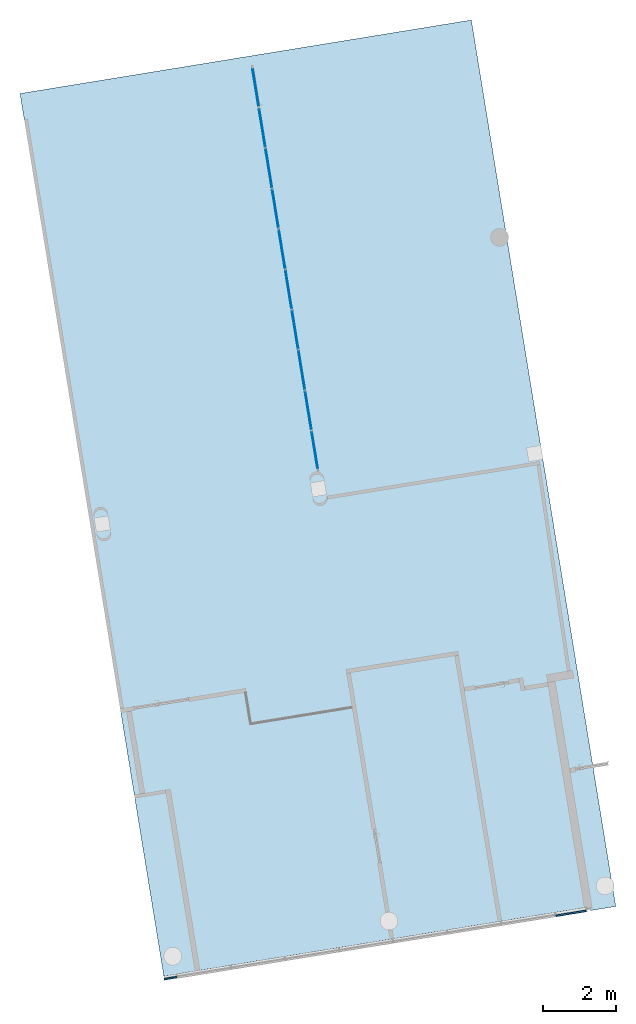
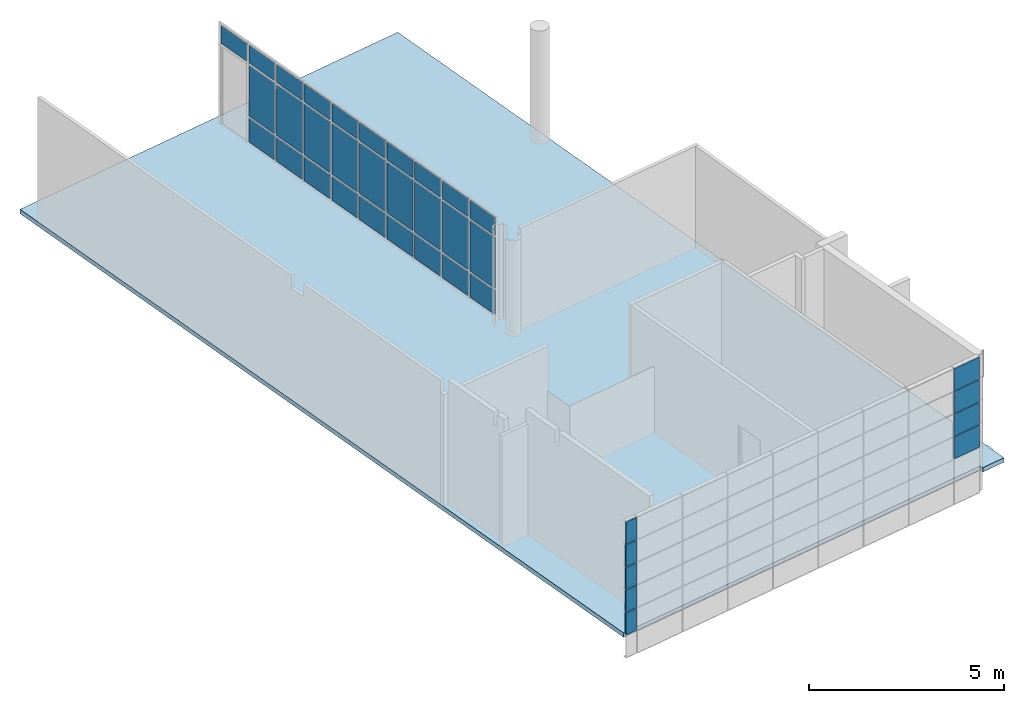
# One storey, part 8 of 18: 37 plates, 1 slab, 2 elements without a shape of their own.
"""IFC2X3 building model written with IfcOpenShell, lengths in millimetres."""

import ifcopenshell
import ifcopenshell.guid

model = None  # the IFC model being written
_history = None  # IfcOwnerHistory: only IFC2X3 demands one
_inside = {}  # id of a spatial element -> (the spatial element, [elements in it])
_under = {}  # id of a project, library or spatial element -> (it, [spatial elements below it])
_declared = {}  # id of a project -> (the project, [libraries it declares])
_typed = {}  # id of a type object -> (the type object, [elements of that type])
_made_of = {}  # id of a material, layer set ... -> (it, [elements and type objects made of it])


def new_model(schema):
    """Start an empty IFC model of exactly this schema.

    Asked for "IFC4X3", IfcOpenShell would pick the latest addendum, in which some entities
    have other attributes; the version numbers below select the first issue.
    IFC2X3 requires an IfcOwnerHistory on every rooted entity: one is made here for all.
    """
    global model, _history
    if schema == "IFC4X3":
        model = ifcopenshell.file(schema_version=(4, 3, 0, 0))
    else:
        model = ifcopenshell.file(schema=schema)
    _inside.clear()
    _under.clear()
    _declared.clear()
    _typed.clear()
    _made_of.clear()
    _history = None
    if model.schema == "IFC2X3":
        org = make("IfcOrganization", Name="unknown")
        user = make(
            "IfcPersonAndOrganization",
            ThePerson=make("IfcPerson", FamilyName="unknown"),
            TheOrganization=org,
        )
        app = make(
            "IfcApplication",
            ApplicationDeveloper=org,
            Version="unknown",
            ApplicationFullName="unknown",
            ApplicationIdentifier="unknown",
        )
        _history = make(
            "IfcOwnerHistory",
            OwningUser=user,
            OwningApplication=app,
            ChangeAction="ADDED",
            CreationDate=0,
        )
    return model


def make(cls, **values):
    """One entity of the class cls with the attributes given. An attribute that is None is left unset."""
    return model.create_entity(
        cls, **{name: value for name, value in values.items() if value is not None}
    )


def entity(cls, *values):
    """Any entity or typed value of the class cls, its attributes in the order of the schema. None: left unset."""
    e = model.create_entity(cls)
    for i, value in enumerate(values):
        if value is not None:
            e[i] = value
    return e


def rooted(cls, **values):
    """An entity with a GlobalId (a new one), such as an element, a storey or a relation."""
    return make(cls, GlobalId=ifcopenshell.guid.new(), OwnerHistory=_history, **values)


def si_unit(unit_type, name, prefix=None):
    """IfcSIUnit, for example si_unit("LENGTHUNIT", "METRE", prefix="MILLI")."""
    return make("IfcSIUnit", UnitType=unit_type, Prefix=prefix, Name=name)


def converted_unit(unit_type, name, factor, base, dimensions=None, offset=None):
    """IfcConversionBasedUnit, such as the inch: factor (a typed value) times the base unit."""
    return make(
        "IfcConversionBasedUnit"
        if offset is None
        else "IfcConversionBasedUnitWithOffset",
        ConversionOffset=offset,
        Dimensions=None
        if dimensions is None
        else entity("IfcDimensionalExponents", *dimensions),
        UnitType=unit_type,
        Name=name,
        ConversionFactor=make(
            "IfcMeasureWithUnit", ValueComponent=factor, UnitComponent=base
        ),
    )


def derived_unit(unit_type, elements):
    """IfcDerivedUnit: a product of units, each with its exponent."""
    return make(
        "IfcDerivedUnit",
        Elements=[
            make("IfcDerivedUnitElement", Unit=unit, Exponent=power)
            for unit, power in elements
        ],
        UnitType=unit_type,
    )


def assignment(units):
    """IfcUnitAssignment: the units of a project."""
    return None if units is None else make("IfcUnitAssignment", Units=units)


def point(xyz):
    """IfcCartesianPoint."""
    return None if xyz is None else make("IfcCartesianPoint", Coordinates=xyz)


def direction(xyz):
    """IfcDirection."""
    return None if xyz is None else make("IfcDirection", DirectionRatios=xyz)


def frame(location, z_axis=None, x_axis=None):
    """IfcAxis2Placement3D, a coordinate frame: its origin and axes. An axis left out is left unset."""
    return make(
        "IfcAxis2Placement3D",
        Location=point(location),
        Axis=direction(z_axis),
        RefDirection=direction(x_axis),
    )


def frame_2d(location, x_axis=None):
    """IfcAxis2Placement2D, a coordinate frame in the plane: its origin and x axis."""
    return make(
        "IfcAxis2Placement2D", Location=point(location), RefDirection=direction(x_axis)
    )


def origin():
    """The frame at (0, 0, 0) with its axes left unset."""
    return frame((0.0, 0.0, 0.0))


def origin_with_axes():
    """The frame at (0, 0, 0) with the z axis (0, 0, 1) and the x axis (1, 0, 0) written out."""
    return frame((0.0, 0.0, 0.0), z_axis=(0.0, 0.0, 1.0), x_axis=(1.0, 0.0, 0.0))


def origin_2d_with_axis():
    """The frame at (0, 0) in the plane with the x axis (1, 0) written out."""
    return frame_2d((0.0, 0.0), x_axis=(1.0, 0.0))


def place(relative_to, where):
    """IfcLocalPlacement: puts the frame where relative to a parent placement (None: the world)."""
    return make(
        "IfcLocalPlacement", PlacementRelTo=relative_to, RelativePlacement=where
    )


def context(
    kind, dimensions, precision=None, world=None, true_north=None, identifier=None
):
    """IfcGeometricRepresentationContext, for example the 3D "Model" context."""
    return make(
        "IfcGeometricRepresentationContext",
        ContextIdentifier=identifier,
        ContextType=kind,
        CoordinateSpaceDimension=dimensions,
        Precision=precision,
        WorldCoordinateSystem=world,
        TrueNorth=true_north,
    )


def subcontext(parent, identifier, kind, view, scale=None):
    """IfcGeometricRepresentationSubContext, for example "Body" below "Model"."""
    return make(
        "IfcGeometricRepresentationSubContext",
        ContextIdentifier=identifier,
        ContextType=kind,
        ParentContext=parent,
        TargetScale=scale,
        TargetView=view,
    )


def project(units=None, contexts=None):
    """IfcProject with its units and contexts."""
    return rooted(
        "IfcProject",
        Name="project",
        RepresentationContexts=contexts,
        UnitsInContext=assignment(units),
    )


def spatial(cls, under=None, at=None, **own):
    """A site, building, storey or space (cls), placed at a placement, below another one or the project."""
    s = rooted(cls, ObjectPlacement=at, **own)
    if under is not None:
        _under.setdefault(under.id(), (under, []))[1].append(s)
    return s


def profile(cls, at=None, kind="AREA", **sizes):
    """A parametric profile (cls). Its sizes go by their IFC names, for example OverallWidth=200.0."""
    return make(cls, ProfileType=kind, Position=at, **sizes)


def rectangle(**sizes):
    """IfcRectangleProfileDef."""
    return profile("IfcRectangleProfileDef", **sizes)


def extrude(swept, where, along, depth):
    """IfcExtrudedAreaSolid: the profile swept, set in the frame where, extruded along a direction by depth."""
    return make(
        "IfcExtrudedAreaSolid",
        SweptArea=swept,
        Position=where,
        ExtrudedDirection=direction(along),
        Depth=depth,
    )


def faces_of(points, faces, orient=None, outer=None):
    """IfcFace entities. A face is a list of loops; a loop is a list of indices into points, from 0.

    orient and outer hold one flag for each loop. By default every Orientation is true, the
    first loop of a face is its IfcFaceOuterBound and the others are IfcFaceBound.
    """
    made = []
    for i, loops in enumerate(faces):
        bounds = []
        for j, loop in enumerate(loops):
            is_outer = j == 0 if outer is None else outer[i][j]
            bounds.append(
                make(
                    "IfcFaceOuterBound" if is_outer else "IfcFaceBound",
                    Bound=make("IfcPolyLoop", Polygon=[points[k] for k in loop]),
                    Orientation=True if orient is None else orient[i][j],
                )
            )
        made.append(make("IfcFace", Bounds=bounds))
    return made


def faceted_brep(points, faces, orient=None, outer=None, voids=None):
    """IfcFacetedBrep: a solid bounded by flat faces; with voids (closed shells), ...WithVoids."""
    shared = [point(p) for p in points]
    hull = make("IfcClosedShell", CfsFaces=faces_of(shared, faces, orient, outer))
    if voids is None:
        return make("IfcFacetedBrep", Outer=hull)
    return make(
        "IfcFacetedBrepWithVoids",
        Outer=hull,
        Voids=[
            make(cls, CfsFaces=faces_of(shared, fs, o, b)) for cls, fs, o, b in voids
        ],
    )


def shape(context_of_items, identifier, shape_type, items):
    """IfcShapeRepresentation: the items that make up one representation, for example the "Body"."""
    return make(
        "IfcShapeRepresentation",
        ContextOfItems=context_of_items,
        RepresentationIdentifier=identifier,
        RepresentationType=shape_type,
        Items=items,
    )


def source(mapping_origin, context_of_items, identifier, shape_type, items):
    """IfcRepresentationMap: a shape defined once, which mapped items show again and again."""
    return make(
        "IfcRepresentationMap",
        MappingOrigin=mapping_origin,
        MappedRepresentation=shape(context_of_items, identifier, shape_type, items),
    )


def transform(
    local_origin,
    x_axis=None,
    y_axis=None,
    z_axis=None,
    scale=None,
    scale2=None,
    scale3=None,
    uniform=True,
):
    """IfcCartesianTransformationOperator3D, or its non-uniform kind. x_axis, y_axis, z_axis: its Axis1, 2, 3."""
    if uniform:
        return make(
            "IfcCartesianTransformationOperator3D",
            Axis1=direction(x_axis),
            Axis2=direction(y_axis),
            LocalOrigin=point(local_origin),
            Scale=scale,
            Axis3=direction(z_axis),
        )
    return make(
        "IfcCartesianTransformationOperator3DnonUniform",
        Axis1=direction(x_axis),
        Axis2=direction(y_axis),
        LocalOrigin=point(local_origin),
        Scale=scale,
        Axis3=direction(z_axis),
        Scale2=scale2,
        Scale3=scale3,
    )


def mapped(mapping_source, mapping_target):
    """IfcMappedItem: shows the shape of a source again, moved by a transform."""
    return make(
        "IfcMappedItem", MappingSource=mapping_source, MappingTarget=mapping_target
    )


def material(Name=None, Category=None):
    """IfcMaterial."""
    return make("IfcMaterial", Name=Name, Category=Category)


def layer(
    of_material, thickness, ventilated=None, Name=None, Category=None, Priority=None
):
    """IfcMaterialLayer: one layer of a wall or slab, of a material (None: an air gap)."""
    return make(
        "IfcMaterialLayer",
        Material=of_material,
        LayerThickness=thickness,
        IsVentilated=ventilated,
        Name=Name,
        Category=Category,
        Priority=Priority,
    )


def layer_set(layers, Name=None):
    """IfcMaterialLayerSet."""
    return make("IfcMaterialLayerSet", MaterialLayers=layers, LayerSetName=Name)


def made_of(thing, what):
    """Note that an element or type object is made of a material, layer set ...; save() writes the relation."""
    if what is not None:
        _made_of.setdefault(what.id(), (what, []))[1].append(thing)
    return thing


def type_object(cls, material=None, **own):
    """A type object (cls), such as IfcWallType, which elements share."""
    return made_of(rooted(cls, **own), material)


def element(
    cls,
    number,
    at=None,
    inside=None,
    cuts=None,
    type_object=None,
    material=None,
    context=None,
    identifier="Body",
    shape_type=None,
    held_by="IfcProductDefinitionShape",
    body=None,
    shapes=None,
    **own,
):
    """One element of the class cls, such as IfcWall. Its Tag is "e" and its number.

    at: its placement. inside: the storey or other place that contains it. cuts: it is an
    opening in that element (IfcRelVoidsElement). A single representation is given by context,
    identifier, shape_type and body (its items); several are given by shapes. held_by: the class
    of the entity that holds the representations. save() writes the other relations.
    """
    e = rooted(cls, Tag="e%d" % number, ObjectPlacement=at, **own)
    if body is not None:
        shapes = [shape(context, identifier, shape_type, body)]
    if shapes is not None:
        e.Representation = make(held_by, Representations=shapes)
    if inside is not None:
        _inside.setdefault(inside.id(), (inside, []))[1].append(e)
    if cuts is not None:
        rooted(
            "IfcRelVoidsElement", RelatingBuildingElement=cuts, RelatedOpeningElement=e
        )
    if type_object is not None:
        _typed.setdefault(type_object.id(), (type_object, []))[1].append(e)
    return made_of(e, material)


def aggregate(whole, parts):
    """IfcRelAggregates: a whole, such as a stair, and the parts it consists of."""
    return rooted("IfcRelAggregates", RelatingObject=whole, RelatedObjects=parts)


def save(model, path):
    """Write the relations noted so far, then the file.

    IfcRelAggregates (storeys below a building ...), IfcRelContainedInSpatialStructure (elements
    in a storey), IfcRelDefinesByType, IfcRelAssociatesMaterial and IfcRelDeclares: one each for
    every whole, place, type object, material and project.
    """
    for whole, parts in _under.values():
        aggregate(whole, parts)
    for where, things in _inside.values():
        rooted(
            "IfcRelContainedInSpatialStructure",
            RelatedElements=things,
            RelatingStructure=where,
        )
    for kind, things in _typed.values():
        rooted("IfcRelDefinesByType", RelatedObjects=things, RelatingType=kind)
    for what, things in _made_of.values():
        rooted("IfcRelAssociatesMaterial", RelatedObjects=things, RelatingMaterial=what)
    for by, libraries in _declared.values():
        rooted("IfcRelDeclares", RelatingContext=by, RelatedDefinitions=libraries)
    model.write(path)


model = new_model("IFC2X3")

# Units and contexts
model_context = context("Model", 3, precision=0.01, world=origin(), true_north=direction((6.12323399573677e-17, 1.0)))
plan_context = context("Plan", 3, precision=1e-05, world=origin_with_axes())
body_context = subcontext(model_context, "Body", "Model", "MODEL_VIEW")
ifc_project = project(units=[converted_unit("PLANEANGLEUNIT", "DEGREE", entity("IfcPositiveLengthMeasure", 0.0174532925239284), si_unit("PLANEANGLEUNIT", "RADIAN"), dimensions=[0, 0, 0, 0, 0, 0, 0]), si_unit("AREAUNIT", "SQUARE_METRE"), si_unit("LENGTHUNIT", "METRE", prefix="MILLI"), si_unit("MASSUNIT", "GRAM", prefix="KILO"), si_unit("POWERUNIT", "WATT"), si_unit("PRESSUREUNIT", "PASCAL", prefix="KILO"), si_unit("FORCEUNIT", "NEWTON", prefix="KILO"), si_unit("ELECTRICVOLTAGEUNIT", "VOLT"), si_unit("ELECTRICCURRENTUNIT", "AMPERE"), si_unit("THERMODYNAMICTEMPERATUREUNIT", "DEGREE_CELSIUS"), si_unit("TIMEUNIT", "SECOND"), si_unit("VOLUMEUNIT", "CUBIC_METRE"), derived_unit("LINEARVELOCITYUNIT", [(si_unit("LENGTHUNIT", "METRE"), 1), (si_unit("TIMEUNIT", "SECOND"), -1)]), derived_unit("VOLUMETRICFLOWRATEUNIT", [(si_unit("VOLUMEUNIT", "CUBIC_METRE"), 1), (si_unit("TIMEUNIT", "SECOND"), -1)]), derived_unit("THERMALTRANSMITTANCEUNIT", [(si_unit("POWERUNIT", "WATT"), 1), (si_unit("THERMODYNAMICTEMPERATUREUNIT", "KELVIN"), -1), (si_unit("AREAUNIT", "SQUARE_METRE"), -1)]), derived_unit("SOUNDPRESSUREUNIT", [(si_unit("PRESSUREUNIT", "PASCAL"), 1)])], contexts=[model_context, plan_context])

# Site, building, storey
site_placement = place(None, frame((-305029.896016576, -232111.759730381, 0.0), z_axis=(0.0, 0.0, 1.0), x_axis=(-0.160806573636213, 0.986985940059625, 0.0)))
site = spatial("IfcSite", under=ifc_project, at=site_placement, Name="Default", CompositionType="ELEMENT")
building_placement = place(site_placement, frame((0.0, 0.0, 0.0), z_axis=(0.0, 0.0, 1.0), x_axis=(1.0, -2.77555756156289e-17, 0.0)))
building = spatial("IfcBuilding", under=site, at=building_placement, Name="br001-a-200-1-0001", CompositionType="ELEMENT")
storey_placement = place(building_placement, frame((0.0, 0.0, 55500.0), z_axis=(0.0, 0.0, 1.0), x_axis=(1.0, -2.77555756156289e-17, 0.0)))
storey = spatial("IfcBuildingStorey", under=building, at=storey_placement, Name="H02-Nivå F-3,5 m", CompositionType="ELEMENT", Elevation=55500.0)

# Curtain wall, plates
curtain_wall_type_1 = type_object("IfcCurtainWallType", Name="Curtain Wall:Flesland int curt wall", PredefinedType="NOTDEFINED")
curtain_wall_1_placement = place(storey_placement, frame((0.0, 0.0, -55500.0), z_axis=(0.0, 0.0, 1.0), x_axis=(1.0, -2.77555756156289e-17, 0.0)))
curtain_wall_1 = element("IfcCurtainWall", 1, at=curtain_wall_1_placement, inside=storey, type_object=curtain_wall_type_1, Name="Curtain Wall:Flesland int curt wall", ObjectType="Curtain Wall:Flesland int curt wall")
ifc_material_1 = material(Name="Flesland - Finishes - Interior - Metal Panel")
plate_type_1 = type_object("IfcPlateType", Name="System Panel:Flesland int curt wall solid", PredefinedType="CURTAIN_PANEL", material=ifc_material_1)
shared_shape_1 = source(origin(), body_context, "Body", "SweptSolid", [
    extrude(rectangle(XDim=50.0, YDim=834.99999969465, at=origin_2d_with_axis()), frame((0.0, -37.5000000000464, 0.0), z_axis=(0.0, 0.0, 1.0), x_axis=(0.0, 1.0, 0.0)), (0.0, 0.0, 1.0), 686.0),
])
plate_1_placement = place(curtain_wall_1_placement, frame((1172125.09858442, -733723.878367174, 56208.0), z_axis=(0.0, 0.0, 1.0), x_axis=(-2.77555756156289e-17, -1.0, 0.0)))
plate_1 = element("IfcPlate", 2, at=plate_1_placement, type_object=plate_type_1, material=ifc_material_1, Name="System Panel:Flesland int curt wall solid", ObjectType="System Panel:Flesland int curt wall solid", context=body_context, shape_type="MappedRepresentation", body=[
    mapped(shared_shape_1, transform((0.0, 0.0, 0.0), scale=1.0)),
])
plate_2_placement = place(curtain_wall_1_placement, frame((1172125.09858442, -733723.878367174, 56919.0), z_axis=(0.0, 0.0, 1.0), x_axis=(-2.77555756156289e-17, -1.0, 0.0)))
plate_2 = element("IfcPlate", 3, at=plate_2_placement, type_object=plate_type_1, material=ifc_material_1, Name="System Panel:Flesland int curt wall solid", ObjectType="System Panel:Flesland int curt wall solid", context=body_context, shape_type="MappedRepresentation", body=[
    mapped(shared_shape_1, transform((0.0, 0.0, 0.0), scale=1.0)),
])
plate_3_placement = place(curtain_wall_1_placement, frame((1172125.09858442, -733723.878367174, 57630.0), z_axis=(0.0, 0.0, 1.0), x_axis=(-2.77555756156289e-17, -1.0, 0.0)))
plate_3 = element("IfcPlate", 4, at=plate_3_placement, type_object=plate_type_1, material=ifc_material_1, Name="System Panel:Flesland int curt wall solid", ObjectType="System Panel:Flesland int curt wall solid", context=body_context, shape_type="MappedRepresentation", body=[
    mapped(shared_shape_1, transform((0.0, 0.0, 0.0), scale=1.0)),
])
plate_4_placement = place(curtain_wall_1_placement, frame((1172125.09858442, -733723.878367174, 58341.0), z_axis=(0.0, 0.0, 1.0), x_axis=(-2.77555756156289e-17, -1.0, 0.0)))
plate_4 = element("IfcPlate", 5, at=plate_4_placement, type_object=plate_type_1, material=ifc_material_1, Name="System Panel:Flesland int curt wall solid", ObjectType="System Panel:Flesland int curt wall solid", context=body_context, shape_type="MappedRepresentation", body=[
    mapped(shared_shape_1, transform((0.0, 0.0, 0.0), scale=1.0)),
])

curtain_wall_type_2 = type_object("IfcCurtainWallType", Name="Curtain Wall:A243 Innvendig glassvegg", PredefinedType="NOTDEFINED")
curtain_wall_2_placement = place(storey_placement, frame((0.0, 0.0, -55500.0), z_axis=(0.0, 0.0, 1.0), x_axis=(1.0, -2.77555756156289e-17, 0.0)))
curtain_wall_2 = element("IfcCurtainWall", 6, at=curtain_wall_2_placement, inside=storey, type_object=curtain_wall_type_2, Name="Curtain Wall:A243 Innvendig glassvegg", ObjectType="Curtain Wall:A243 Innvendig glassvegg")
ifc_material_2 = material(Name="_Flesland Glass")
plate_type_2 = type_object("IfcPlateType", Name="System Panel:A234 - Systemglass", PredefinedType="CURTAIN_PANEL", material=ifc_material_2)
shared_shape_2 = source(origin(), body_context, "Body", "SweptSolid", [
    extrude(rectangle(XDim=25.0, YDim=1001.6666666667, at=origin_2d_with_axis()), frame((0.0, 0.0, 0.0), z_axis=(0.0, 0.0, 1.0), x_axis=(0.0, 1.0, 0.0)), (0.0, 0.0, 1.0), 740.000000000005),
])
plate_5_placement = place(curtain_wall_2_placement, frame((1185734.43191775, -728835.878367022, 55580.0), z_axis=(0.0, 0.0, 1.0), x_axis=(1.0, -2.77555756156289e-17, 0.0)))
plate_5 = element("IfcPlate", 7, at=plate_5_placement, type_object=plate_type_2, material=ifc_material_2, Name="System Panel:A234 - Systemglass", ObjectType="System Panel:A234 - Systemglass", context=body_context, shape_type="MappedRepresentation", body=[
    mapped(shared_shape_2, transform((0.0, 0.0, 0.0), scale=1.0)),
])
plate_type_3 = type_object("IfcPlateType", Name="System Panel:A234 - Systemglass", PredefinedType="CURTAIN_PANEL", material=ifc_material_2)
shared_shape_3 = source(origin(), body_context, "Body", "SweptSolid", [
    extrude(rectangle(XDim=25.0, YDim=1041.66666666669, at=origin_2d_with_axis()), frame((0.0, 0.0, 0.0), z_axis=(0.0, 0.0, 1.0), x_axis=(0.0, 1.0, 0.0)), (0.0, 0.0, 1.0), 740.000000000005),
])
plate_6_placement = place(curtain_wall_2_placement, frame((1186836.09858442, -728835.878367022, 55580.0), z_axis=(0.0, 0.0, 1.0), x_axis=(1.0, -2.77555756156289e-17, 0.0)))
plate_6 = element("IfcPlate", 8, at=plate_6_placement, type_object=plate_type_3, material=ifc_material_2, Name="System Panel:A234 - Systemglass", ObjectType="System Panel:A234 - Systemglass", context=body_context, shape_type="MappedRepresentation", body=[
    mapped(shared_shape_3, transform((0.0, 0.0, 0.0), scale=1.0)),
])
plate_7_placement = place(curtain_wall_2_placement, frame((1187957.76525108, -728835.878367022, 55580.0), z_axis=(0.0, 0.0, 1.0), x_axis=(1.0, -2.77555756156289e-17, 0.0)))
plate_7 = element("IfcPlate", 9, at=plate_7_placement, type_object=plate_type_3, material=ifc_material_2, Name="System Panel:A234 - Systemglass", ObjectType="System Panel:A234 - Systemglass", context=body_context, shape_type="MappedRepresentation", body=[
    mapped(shared_shape_3, transform((0.0, 0.0, 0.0), scale=1.0)),
])
plate_type_4 = type_object("IfcPlateType", Name="System Panel:A234 - Systemglass", PredefinedType="CURTAIN_PANEL", material=ifc_material_2)
shared_shape_4 = source(origin(), body_context, "Body", "SweptSolid", [
    extrude(rectangle(XDim=25.0, YDim=1040.00000000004, at=origin_2d_with_axis()), frame((0.0, 0.0, 0.0), z_axis=(0.0, 0.0, 1.0), x_axis=(0.0, 1.0, 0.0)), (0.0, 0.0, 1.0), 740.000000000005),
])
plate_8_placement = place(curtain_wall_2_placement, frame((1189078.59858442, -728835.878367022, 55580.0), z_axis=(0.0, 0.0, 1.0), x_axis=(1.0, -2.77555756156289e-17, 0.0)))
plate_8 = element("IfcPlate", 10, at=plate_8_placement, type_object=plate_type_4, material=ifc_material_2, Name="System Panel:A234 - Systemglass", ObjectType="System Panel:A234 - Systemglass", context=body_context, shape_type="MappedRepresentation", body=[
    mapped(shared_shape_4, transform((0.0, 0.0, 0.0), scale=1.0)),
])
plate_9_placement = place(curtain_wall_2_placement, frame((1192438.59858442, -728835.878367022, 55580.0), z_axis=(0.0, 0.0, 1.0), x_axis=(1.0, -2.77555756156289e-17, 0.0)))
plate_9 = element("IfcPlate", 11, at=plate_9_placement, type_object=plate_type_4, material=ifc_material_2, Name="System Panel:A234 - Systemglass", ObjectType="System Panel:A234 - Systemglass", context=body_context, shape_type="MappedRepresentation", body=[
    mapped(shared_shape_4, transform((0.0, 0.0, 0.0), scale=1.0)),
])
plate_10_placement = place(curtain_wall_2_placement, frame((1194683.59858442, -728835.878367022, 55580.0), z_axis=(0.0, 0.0, 1.0), x_axis=(1.0, -2.77555756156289e-17, 0.0)))
plate_10 = element("IfcPlate", 12, at=plate_10_placement, type_object=plate_type_4, material=ifc_material_2, Name="System Panel:A234 - Systemglass", ObjectType="System Panel:A234 - Systemglass", context=body_context, shape_type="MappedRepresentation", body=[
    mapped(shared_shape_4, transform((0.0, 0.0, 0.0), scale=1.0)),
])
plate_type_5 = type_object("IfcPlateType", Name="System Panel:A234 - Systemglass", PredefinedType="CURTAIN_PANEL", material=ifc_material_2)
shared_shape_5 = source(origin(), body_context, "Body", "SweptSolid", [
    extrude(rectangle(XDim=25.0, YDim=1034.99999999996, at=origin_2d_with_axis()), frame((0.0, 0.0, 0.0), z_axis=(0.0, 0.0, 1.0), x_axis=(0.0, 1.0, 0.0)), (0.0, 0.0, 1.0), 740.000000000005),
])
plate_11_placement = place(curtain_wall_2_placement, frame((1190196.09858442, -728835.878367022, 55580.0), z_axis=(0.0, 0.0, 1.0), x_axis=(1.0, -2.77555756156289e-17, 0.0)))
plate_11 = element("IfcPlate", 13, at=plate_11_placement, type_object=plate_type_5, material=ifc_material_2, Name="System Panel:A234 - Systemglass", ObjectType="System Panel:A234 - Systemglass", context=body_context, shape_type="MappedRepresentation", body=[
    mapped(shared_shape_5, transform((0.0, 0.0, 0.0), scale=1.0)),
])
plate_type_6 = type_object("IfcPlateType", Name="System Panel:A234 - Systemglass", PredefinedType="CURTAIN_PANEL", material=ifc_material_2)
shared_shape_6 = source(origin(), body_context, "Body", "SweptSolid", [
    extrude(rectangle(XDim=25.0, YDim=1044.99999999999, at=origin_2d_with_axis()), frame((0.0, 0.0, 0.0), z_axis=(0.0, 0.0, 1.0), x_axis=(0.0, 1.0, 0.0)), (0.0, 0.0, 1.0), 740.000000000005),
])
plate_12_placement = place(curtain_wall_2_placement, frame((1191316.09858442, -728835.878367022, 55580.0), z_axis=(0.0, 0.0, 1.0), x_axis=(1.0, -2.77555756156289e-17, 0.0)))
plate_12 = element("IfcPlate", 14, at=plate_12_placement, type_object=plate_type_6, material=ifc_material_2, Name="System Panel:A234 - Systemglass", ObjectType="System Panel:A234 - Systemglass", context=body_context, shape_type="MappedRepresentation", body=[
    mapped(shared_shape_6, transform((0.0, 0.0, 0.0), scale=1.0)),
])
plate_13_placement = place(curtain_wall_2_placement, frame((1193561.09858442, -728835.878367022, 55580.0), z_axis=(0.0, 0.0, 1.0), x_axis=(1.0, -2.77555756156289e-17, 0.0)))
plate_13 = element("IfcPlate", 15, at=plate_13_placement, type_object=plate_type_6, material=ifc_material_2, Name="System Panel:A234 - Systemglass", ObjectType="System Panel:A234 - Systemglass", context=body_context, shape_type="MappedRepresentation", body=[
    mapped(shared_shape_6, transform((0.0, 0.0, 0.0), scale=1.0)),
])
plate_type_7 = type_object("IfcPlateType", Name="System Panel:A234 - Systemglass", PredefinedType="CURTAIN_PANEL", material=ifc_material_2)
shared_shape_7 = source(origin(), body_context, "Body", "SweptSolid", [
    extrude(rectangle(XDim=25.0, YDim=1001.6666666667, at=origin_2d_with_axis()), frame((0.0, 0.0, 0.0), z_axis=(0.0, 0.0, 1.0), x_axis=(0.0, 1.0, 0.0)), (0.0, 0.0, 1.0), 1580.0),
])
plate_14_placement = place(curtain_wall_2_placement, frame((1185734.43191775, -728835.878367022, 56400.0), z_axis=(0.0, 0.0, 1.0), x_axis=(1.0, -2.77555756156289e-17, 0.0)))
plate_14 = element("IfcPlate", 16, at=plate_14_placement, type_object=plate_type_7, material=ifc_material_2, Name="System Panel:A234 - Systemglass", ObjectType="System Panel:A234 - Systemglass", context=body_context, shape_type="MappedRepresentation", body=[
    mapped(shared_shape_7, transform((0.0, 0.0, 0.0), scale=1.0)),
])
plate_type_8 = type_object("IfcPlateType", Name="System Panel:A234 - Systemglass", PredefinedType="CURTAIN_PANEL", material=ifc_material_2)
shared_shape_8 = source(origin(), body_context, "Body", "SweptSolid", [
    extrude(rectangle(XDim=25.0, YDim=1041.66666666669, at=origin_2d_with_axis()), frame((0.0, 0.0, 0.0), z_axis=(0.0, 0.0, 1.0), x_axis=(0.0, 1.0, 0.0)), (0.0, 0.0, 1.0), 1580.0),
])
plate_15_placement = place(curtain_wall_2_placement, frame((1186836.09858442, -728835.878367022, 56400.0), z_axis=(0.0, 0.0, 1.0), x_axis=(1.0, -2.77555756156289e-17, 0.0)))
plate_15 = element("IfcPlate", 17, at=plate_15_placement, type_object=plate_type_8, material=ifc_material_2, Name="System Panel:A234 - Systemglass", ObjectType="System Panel:A234 - Systemglass", context=body_context, shape_type="MappedRepresentation", body=[
    mapped(shared_shape_8, transform((0.0, 0.0, 0.0), scale=1.0)),
])
plate_16_placement = place(curtain_wall_2_placement, frame((1187957.76525108, -728835.878367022, 56400.0), z_axis=(0.0, 0.0, 1.0), x_axis=(1.0, -2.77555756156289e-17, 0.0)))
plate_16 = element("IfcPlate", 18, at=plate_16_placement, type_object=plate_type_8, material=ifc_material_2, Name="System Panel:A234 - Systemglass", ObjectType="System Panel:A234 - Systemglass", context=body_context, shape_type="MappedRepresentation", body=[
    mapped(shared_shape_8, transform((0.0, 0.0, 0.0), scale=1.0)),
])
plate_type_9 = type_object("IfcPlateType", Name="System Panel:A234 - Systemglass", PredefinedType="CURTAIN_PANEL", material=ifc_material_2)
shared_shape_9 = source(origin(), body_context, "Body", "SweptSolid", [
    extrude(rectangle(XDim=25.0, YDim=1040.00000000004, at=origin_2d_with_axis()), frame((0.0, 0.0, 0.0), z_axis=(0.0, 0.0, 1.0), x_axis=(0.0, 1.0, 0.0)), (0.0, 0.0, 1.0), 1580.0),
])
plate_17_placement = place(curtain_wall_2_placement, frame((1189078.59858442, -728835.878367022, 56400.0), z_axis=(0.0, 0.0, 1.0), x_axis=(1.0, -2.77555756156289e-17, 0.0)))
plate_17 = element("IfcPlate", 19, at=plate_17_placement, type_object=plate_type_9, material=ifc_material_2, Name="System Panel:A234 - Systemglass", ObjectType="System Panel:A234 - Systemglass", context=body_context, shape_type="MappedRepresentation", body=[
    mapped(shared_shape_9, transform((0.0, 0.0, 0.0), scale=1.0)),
])
plate_18_placement = place(curtain_wall_2_placement, frame((1192438.59858442, -728835.878367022, 56400.0), z_axis=(0.0, 0.0, 1.0), x_axis=(1.0, -2.77555756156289e-17, 0.0)))
plate_18 = element("IfcPlate", 20, at=plate_18_placement, type_object=plate_type_9, material=ifc_material_2, Name="System Panel:A234 - Systemglass", ObjectType="System Panel:A234 - Systemglass", context=body_context, shape_type="MappedRepresentation", body=[
    mapped(shared_shape_9, transform((0.0, 0.0, 0.0), scale=1.0)),
])
plate_19_placement = place(curtain_wall_2_placement, frame((1194683.59858442, -728835.878367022, 56400.0), z_axis=(0.0, 0.0, 1.0), x_axis=(1.0, -2.77555756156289e-17, 0.0)))
plate_19 = element("IfcPlate", 21, at=plate_19_placement, type_object=plate_type_9, material=ifc_material_2, Name="System Panel:A234 - Systemglass", ObjectType="System Panel:A234 - Systemglass", context=body_context, shape_type="MappedRepresentation", body=[
    mapped(shared_shape_9, transform((0.0, 0.0, 0.0), scale=1.0)),
])
plate_type_10 = type_object("IfcPlateType", Name="System Panel:A234 - Systemglass", PredefinedType="CURTAIN_PANEL", material=ifc_material_2)
shared_shape_10 = source(origin(), body_context, "Body", "SweptSolid", [
    extrude(rectangle(XDim=25.0, YDim=1034.99999999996, at=origin_2d_with_axis()), frame((0.0, 0.0, 0.0), z_axis=(0.0, 0.0, 1.0), x_axis=(0.0, 1.0, 0.0)), (0.0, 0.0, 1.0), 1580.0),
])
plate_20_placement = place(curtain_wall_2_placement, frame((1190196.09858442, -728835.878367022, 56400.0), z_axis=(0.0, 0.0, 1.0), x_axis=(1.0, -2.77555756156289e-17, 0.0)))
plate_20 = element("IfcPlate", 22, at=plate_20_placement, type_object=plate_type_10, material=ifc_material_2, Name="System Panel:A234 - Systemglass", ObjectType="System Panel:A234 - Systemglass", context=body_context, shape_type="MappedRepresentation", body=[
    mapped(shared_shape_10, transform((0.0, 0.0, 0.0), scale=1.0)),
])
plate_type_11 = type_object("IfcPlateType", Name="System Panel:A234 - Systemglass", PredefinedType="CURTAIN_PANEL", material=ifc_material_2)
shared_shape_11 = source(origin(), body_context, "Body", "SweptSolid", [
    extrude(rectangle(XDim=25.0, YDim=1044.99999999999, at=origin_2d_with_axis()), frame((0.0, 0.0, 0.0), z_axis=(0.0, 0.0, 1.0), x_axis=(0.0, 1.0, 0.0)), (0.0, 0.0, 1.0), 1580.0),
])
plate_21_placement = place(curtain_wall_2_placement, frame((1191316.09858442, -728835.878367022, 56400.0), z_axis=(0.0, 0.0, 1.0), x_axis=(1.0, -2.77555756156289e-17, 0.0)))
plate_21 = element("IfcPlate", 23, at=plate_21_placement, type_object=plate_type_11, material=ifc_material_2, Name="System Panel:A234 - Systemglass", ObjectType="System Panel:A234 - Systemglass", context=body_context, shape_type="MappedRepresentation", body=[
    mapped(shared_shape_11, transform((0.0, 0.0, 0.0), scale=1.0)),
])
plate_22_placement = place(curtain_wall_2_placement, frame((1193561.09858442, -728835.878367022, 56400.0), z_axis=(0.0, 0.0, 1.0), x_axis=(1.0, -2.77555756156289e-17, 0.0)))
plate_22 = element("IfcPlate", 24, at=plate_22_placement, type_object=plate_type_11, material=ifc_material_2, Name="System Panel:A234 - Systemglass", ObjectType="System Panel:A234 - Systemglass", context=body_context, shape_type="MappedRepresentation", body=[
    mapped(shared_shape_11, transform((0.0, 0.0, 0.0), scale=1.0)),
])
plate_type_12 = type_object("IfcPlateType", Name="System Panel:A234 - Systemglass", PredefinedType="CURTAIN_PANEL", material=ifc_material_2)
shared_shape_12 = source(origin(), body_context, "Body", "SweptSolid", [
    extrude(rectangle(XDim=25.0, YDim=1001.6666666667, at=origin_2d_with_axis()), frame((0.0, 0.0, 0.0), z_axis=(0.0, 0.0, 1.0), x_axis=(0.0, 1.0, 0.0)), (0.0, 0.0, 1.0), 560.000000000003),
])
plate_23_placement = place(curtain_wall_2_placement, frame((1185734.43191775, -728835.878367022, 58060.0), z_axis=(0.0, 0.0, 1.0), x_axis=(1.0, -2.77555756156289e-17, 0.0)))
plate_23 = element("IfcPlate", 25, at=plate_23_placement, type_object=plate_type_12, material=ifc_material_2, Name="System Panel:A234 - Systemglass", ObjectType="System Panel:A234 - Systemglass", context=body_context, shape_type="MappedRepresentation", body=[
    mapped(shared_shape_12, transform((0.0, 0.0, 0.0), scale=1.0)),
])
plate_type_13 = type_object("IfcPlateType", Name="System Panel:A234 - Systemglass", PredefinedType="CURTAIN_PANEL", material=ifc_material_2)
shared_shape_13 = source(origin(), body_context, "Body", "SweptSolid", [
    extrude(rectangle(XDim=25.0, YDim=1041.66666666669, at=origin_2d_with_axis()), frame((0.0, 0.0, 0.0), z_axis=(0.0, 0.0, 1.0), x_axis=(0.0, 1.0, 0.0)), (0.0, 0.0, 1.0), 560.000000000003),
])
plate_24_placement = place(curtain_wall_2_placement, frame((1186836.09858442, -728835.878367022, 58060.0), z_axis=(0.0, 0.0, 1.0), x_axis=(1.0, -2.77555756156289e-17, 0.0)))
plate_24 = element("IfcPlate", 26, at=plate_24_placement, type_object=plate_type_13, material=ifc_material_2, Name="System Panel:A234 - Systemglass", ObjectType="System Panel:A234 - Systemglass", context=body_context, shape_type="MappedRepresentation", body=[
    mapped(shared_shape_13, transform((0.0, 0.0, 0.0), scale=1.0)),
])
plate_25_placement = place(curtain_wall_2_placement, frame((1187957.76525108, -728835.878367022, 58060.0), z_axis=(0.0, 0.0, 1.0), x_axis=(1.0, -2.77555756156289e-17, 0.0)))
plate_25 = element("IfcPlate", 27, at=plate_25_placement, type_object=plate_type_13, material=ifc_material_2, Name="System Panel:A234 - Systemglass", ObjectType="System Panel:A234 - Systemglass", context=body_context, shape_type="MappedRepresentation", body=[
    mapped(shared_shape_13, transform((0.0, 0.0, 0.0), scale=1.0)),
])
plate_type_14 = type_object("IfcPlateType", Name="System Panel:A234 - Systemglass", PredefinedType="CURTAIN_PANEL", material=ifc_material_2)
shared_shape_14 = source(origin(), body_context, "Body", "SweptSolid", [
    extrude(rectangle(XDim=25.0, YDim=1040.00000000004, at=origin_2d_with_axis()), frame((0.0, 0.0, 0.0), z_axis=(0.0, 0.0, 1.0), x_axis=(0.0, 1.0, 0.0)), (0.0, 0.0, 1.0), 560.000000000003),
])
plate_26_placement = place(curtain_wall_2_placement, frame((1189078.59858442, -728835.878367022, 58060.0), z_axis=(0.0, 0.0, 1.0), x_axis=(1.0, -2.77555756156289e-17, 0.0)))
plate_26 = element("IfcPlate", 28, at=plate_26_placement, type_object=plate_type_14, material=ifc_material_2, Name="System Panel:A234 - Systemglass", ObjectType="System Panel:A234 - Systemglass", context=body_context, shape_type="MappedRepresentation", body=[
    mapped(shared_shape_14, transform((0.0, 0.0, 0.0), scale=1.0)),
])
plate_27_placement = place(curtain_wall_2_placement, frame((1192438.59858442, -728835.878367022, 58060.0), z_axis=(0.0, 0.0, 1.0), x_axis=(1.0, -2.77555756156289e-17, 0.0)))
plate_27 = element("IfcPlate", 29, at=plate_27_placement, type_object=plate_type_14, material=ifc_material_2, Name="System Panel:A234 - Systemglass", ObjectType="System Panel:A234 - Systemglass", context=body_context, shape_type="MappedRepresentation", body=[
    mapped(shared_shape_14, transform((0.0, 0.0, 0.0), scale=1.0)),
])
plate_28_placement = place(curtain_wall_2_placement, frame((1194683.59858442, -728835.878367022, 58060.0), z_axis=(0.0, 0.0, 1.0), x_axis=(1.0, -2.77555756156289e-17, 0.0)))
plate_28 = element("IfcPlate", 30, at=plate_28_placement, type_object=plate_type_14, material=ifc_material_2, Name="System Panel:A234 - Systemglass", ObjectType="System Panel:A234 - Systemglass", context=body_context, shape_type="MappedRepresentation", body=[
    mapped(shared_shape_14, transform((0.0, 0.0, 0.0), scale=1.0)),
])
plate_type_15 = type_object("IfcPlateType", Name="System Panel:A234 - Systemglass", PredefinedType="CURTAIN_PANEL", material=ifc_material_2)
shared_shape_15 = source(origin(), body_context, "Body", "SweptSolid", [
    extrude(rectangle(XDim=25.0, YDim=1034.99999999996, at=origin_2d_with_axis()), frame((0.0, 0.0, 0.0), z_axis=(0.0, 0.0, 1.0), x_axis=(0.0, 1.0, 0.0)), (0.0, 0.0, 1.0), 560.000000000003),
])
plate_29_placement = place(curtain_wall_2_placement, frame((1190196.09858442, -728835.878367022, 58060.0), z_axis=(0.0, 0.0, 1.0), x_axis=(1.0, -2.77555756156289e-17, 0.0)))
plate_29 = element("IfcPlate", 31, at=plate_29_placement, type_object=plate_type_15, material=ifc_material_2, Name="System Panel:A234 - Systemglass", ObjectType="System Panel:A234 - Systemglass", context=body_context, shape_type="MappedRepresentation", body=[
    mapped(shared_shape_15, transform((0.0, 0.0, 0.0), scale=1.0)),
])
plate_type_16 = type_object("IfcPlateType", Name="System Panel:A234 - Systemglass", PredefinedType="CURTAIN_PANEL", material=ifc_material_2)
shared_shape_16 = source(origin(), body_context, "Body", "SweptSolid", [
    extrude(rectangle(XDim=25.0, YDim=1044.99999999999, at=origin_2d_with_axis()), frame((0.0, 0.0, 0.0), z_axis=(0.0, 0.0, 1.0), x_axis=(0.0, 1.0, 0.0)), (0.0, 0.0, 1.0), 560.000000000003),
])
plate_30_placement = place(curtain_wall_2_placement, frame((1191316.09858442, -728835.878367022, 58060.0), z_axis=(0.0, 0.0, 1.0), x_axis=(1.0, -2.77555756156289e-17, 0.0)))
plate_30 = element("IfcPlate", 32, at=plate_30_placement, type_object=plate_type_16, material=ifc_material_2, Name="System Panel:A234 - Systemglass", ObjectType="System Panel:A234 - Systemglass", context=body_context, shape_type="MappedRepresentation", body=[
    mapped(shared_shape_16, transform((0.0, 0.0, 0.0), scale=1.0)),
])
plate_31_placement = place(curtain_wall_2_placement, frame((1193561.09858442, -728835.878367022, 58060.0), z_axis=(0.0, 0.0, 1.0), x_axis=(1.0, -2.77555756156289e-17, 0.0)))
plate_31 = element("IfcPlate", 33, at=plate_31_placement, type_object=plate_type_16, material=ifc_material_2, Name="System Panel:A234 - Systemglass", ObjectType="System Panel:A234 - Systemglass", context=body_context, shape_type="MappedRepresentation", body=[
    mapped(shared_shape_16, transform((0.0, 0.0, 0.0), scale=1.0)),
])
plate_type_17 = type_object("IfcPlateType", Name="System Panel:A234 - Systemglass", PredefinedType="CURTAIN_PANEL", material=ifc_material_2)
shared_shape_17 = source(origin(), body_context, "Body", "SweptSolid", [
    extrude(rectangle(XDim=25.0, YDim=1060.00000000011, at=origin_2d_with_axis()), frame((0.0, 0.0, 0.0), z_axis=(0.0, 0.0, 1.0), x_axis=(0.0, 1.0, 0.0)), (0.0, 0.0, 1.0), 560.000000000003),
])
plate_32_placement = place(curtain_wall_2_placement, frame((1195813.59858442, -728835.878367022, 58060.0), z_axis=(0.0, 0.0, 1.0), x_axis=(1.0, -2.77555756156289e-17, 0.0)))
plate_32 = element("IfcPlate", 34, at=plate_32_placement, type_object=plate_type_17, material=ifc_material_2, Name="System Panel:A234 - Systemglass", ObjectType="System Panel:A234 - Systemglass", context=body_context, shape_type="MappedRepresentation", body=[
    mapped(shared_shape_17, transform((0.0, 0.0, 0.0), scale=1.0)),
])
aggregate(curtain_wall_2, [plate_5, plate_6, plate_7, plate_8, plate_11, plate_12, plate_9, plate_13, plate_10, plate_14, plate_15, plate_16, plate_17, plate_20, plate_21, plate_18, plate_22, plate_19, plate_23, plate_24, plate_25, plate_26, plate_29, plate_30, plate_27, plate_31, plate_28, plate_32])

# Plate
plate_type_18 = type_object("IfcPlateType", Name="System Panel:Flesland int curt wall solid", PredefinedType="CURTAIN_PANEL", material=ifc_material_1)
plate_33_placement = place(curtain_wall_1_placement, frame((1172125.09858442, -722043.878367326, 58341.0), z_axis=(0.0, 0.0, 1.0), x_axis=(-2.77555756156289e-17, -1.0, 0.0)))
plate_33 = element("IfcPlate", 35, at=plate_33_placement, type_object=plate_type_18, Name="System Panel:Flesland int curt wall solid", ObjectType="System Panel:Flesland int curt wall solid", context=body_context, shape_type="Brep", body=[
    faceted_brep([(737.500000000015, -49.9999999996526, 0.0), (737.500000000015, -49.9999999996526, 686.0), (737.500000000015, -12.4999999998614, 686.0), (737.500000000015, -12.4999999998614, 0.0), (393.20107191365, -12.4999999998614, 686.0), (393.20107191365, -12.4999999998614, 0.0), (393.201071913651, -49.9999999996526, -1.13686837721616e-13), (393.201071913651, -49.9999999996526, 686.0)], [[[0, 1, 2, 3]], [[4, 5, 3, 2]], [[5, 6, 0, 3]], [[1, 7, 4, 2]], [[6, 5, 4, 7]], [[7, 1, 0, 6]]], orient=[[False], [False], [False], [False], [False], [False]]),
])

ifc_material_3 = material(Name="_NSW Glass")
plate_type_19 = type_object("IfcPlateType", Name="System Panel:Flesland int curt wall", PredefinedType="CURTAIN_PANEL", material=ifc_material_3)
plate_34_placement = place(curtain_wall_1_placement, frame((1172125.09858442, -722043.878367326, 56919.0), z_axis=(0.0, 0.0, 1.0), x_axis=(-2.77555756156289e-17, -1.0, 0.0)))
plate_34 = element("IfcPlate", 36, at=plate_34_placement, type_object=plate_type_19, Name="System Panel:Flesland int curt wall", ObjectType="System Panel:Flesland int curt wall", context=body_context, shape_type="Brep", body=[
    faceted_brep([(393.201071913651, -49.9999999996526, 0.0), (393.201071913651, -49.9999999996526, 686.0), (737.500000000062, -50.0, 686.0), (737.500000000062, -50.0, 0.0), (737.500000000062, 0.0, 686.0), (737.500000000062, 0.0, 0.0), (393.20107191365, 0.0, 686.0), (393.20107191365, 0.0, 0.0)], [[[0, 1, 2, 3]], [[3, 2, 4, 5]], [[6, 7, 5, 4]], [[7, 0, 3, 5]], [[1, 6, 4, 2]], [[0, 7, 6, 1]]], orient=[[False], [False], [False], [False], [False], [False]]),
])

plate_35_placement = place(curtain_wall_1_placement, frame((1172125.09858442, -722043.878367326, 57630.0), z_axis=(0.0, 0.0, 1.0), x_axis=(-2.77555756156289e-17, -1.0, 0.0)))
plate_35 = element("IfcPlate", 37, at=plate_35_placement, type_object=plate_type_19, Name="System Panel:Flesland int curt wall", ObjectType="System Panel:Flesland int curt wall", context=body_context, shape_type="Brep", body=[
    faceted_brep([(393.201071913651, -49.9999999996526, 0.0), (393.201071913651, -49.9999999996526, 686.0), (737.500000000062, -50.0, 686.0), (737.500000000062, -50.0, 0.0), (737.500000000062, 0.0, 686.0), (737.500000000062, 0.0, 0.0), (393.20107191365, 0.0, 686.0), (393.20107191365, 0.0, 0.0)], [[[0, 1, 2, 3]], [[3, 2, 4, 5]], [[6, 7, 5, 4]], [[7, 0, 3, 5]], [[1, 6, 4, 2]], [[0, 7, 6, 1]]], orient=[[False], [False], [False], [False], [False], [False]]),
])

plate_36_placement = place(curtain_wall_1_placement, frame((1172125.09858442, -722043.878367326, 56208.0), z_axis=(0.0, 0.0, 1.0), x_axis=(-2.77555756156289e-17, -1.0, 0.0)))
plate_36 = element("IfcPlate", 38, at=plate_36_placement, type_object=plate_type_19, Name="System Panel:Flesland int curt wall", ObjectType="System Panel:Flesland int curt wall", context=body_context, shape_type="Brep", body=[
    faceted_brep([(393.201071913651, -49.9999999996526, 0.0), (393.201071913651, -49.9999999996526, 686.0), (737.500000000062, -50.0, 686.0), (737.500000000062, -50.0, 0.0), (737.500000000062, 0.0, 686.0), (737.500000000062, 0.0, 0.0), (393.20107191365, 0.0, 686.0), (393.20107191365, 0.0, 0.0)], [[[0, 1, 2, 3]], [[3, 2, 4, 5]], [[6, 7, 5, 4]], [[7, 0, 3, 5]], [[1, 6, 4, 2]], [[0, 7, 6, 1]]], orient=[[False], [False], [False], [False], [False], [False]]),
])

plate_37_placement = place(curtain_wall_1_placement, frame((1172125.09858442, -722043.878367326, 55497.0), z_axis=(0.0, 0.0, 1.0), x_axis=(-2.77555756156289e-17, -1.0, 0.0)))
plate_37 = element("IfcPlate", 39, at=plate_37_placement, type_object=plate_type_19, Name="System Panel:Flesland int curt wall", ObjectType="System Panel:Flesland int curt wall", context=body_context, shape_type="Brep", body=[
    faceted_brep([(393.201071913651, -49.9999999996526, 0.0), (393.201071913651, -49.9999999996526, 686.0), (737.500000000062, -50.0, 686.0), (737.500000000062, -50.0, 0.0), (737.500000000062, 0.0, 686.0), (737.500000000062, 0.0, 0.0), (393.20107191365, 0.0, 686.0), (393.20107191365, 0.0, 0.0)], [[[0, 1, 2, 3]], [[3, 2, 4, 5]], [[6, 7, 5, 4]], [[7, 0, 3, 5]], [[1, 6, 4, 2]], [[0, 7, 6, 1]]], orient=[[False], [False], [False], [False], [False], [False]]),
])

aggregate(curtain_wall_1, [plate_1, plate_2, plate_3, plate_4, plate_33, plate_34, plate_35, plate_36, plate_37])

# Slab
ifc_material_4 = material(Name="<Unnamed>")
ifc_layer = layer(ifc_material_4, 138.0)
ifc_layer_set = layer_set([ifc_layer], Name="Floor:Generic 138mm")
slab_type = type_object("IfcSlabType", Name="Floor:Generic 138mm", PredefinedType="FLOOR", material=ifc_layer_set)
slab_placement = place(storey_placement, frame((1099062.59858442, -755896.827798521, -138.0), z_axis=(0.0, 0.0, 1.0), x_axis=(1.0, -2.77555756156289e-17, 0.0)))
element("IfcSlab", 40, at=slab_placement, inside=storey, type_object=slab_type, Name="Floor:Generic 138mm", ObjectType="Floor:Generic 138mm", PredefinedType="FLOOR", context=body_context, shape_type="Brep", body=[
    faceted_brep([(73115.0583172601, 33459.7483592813, 138.0), (97616.0000000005, 33459.7483592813, 138.0), (97616.0000000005, 20932.4282925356, 138.0), (73012.5000000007, 20932.4282925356, 138.0), (73012.5000000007, 21630.0579211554, 138.0), (73115.05831726, 21630.0579211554, 138.0), (73012.5000000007, 21630.0579211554, 0.0), (73012.5000000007, 20932.4282925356, -3.29691829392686e-12), (97616.0000000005, 20932.4282925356, -3.29691829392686e-12), (97616.0000000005, 33459.7483592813, -3.29691829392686e-12), (73115.0583172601, 33459.7483592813, 0.0), (73115.05831726, 21630.0579211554, 0.0)], [[[0, 1, 2, 3, 4, 5]], [[6, 7, 8, 9, 10, 11]], [[10, 0, 5, 11]], [[4, 6, 11, 5]], [[2, 1, 9, 8]], [[1, 0, 10, 9]], [[7, 6, 4, 3]], [[3, 2, 8, 7]]], orient=[[False], [False], [False], [False], [False], [False], [False], [False]]),
])

save(model, "model.ifc")
